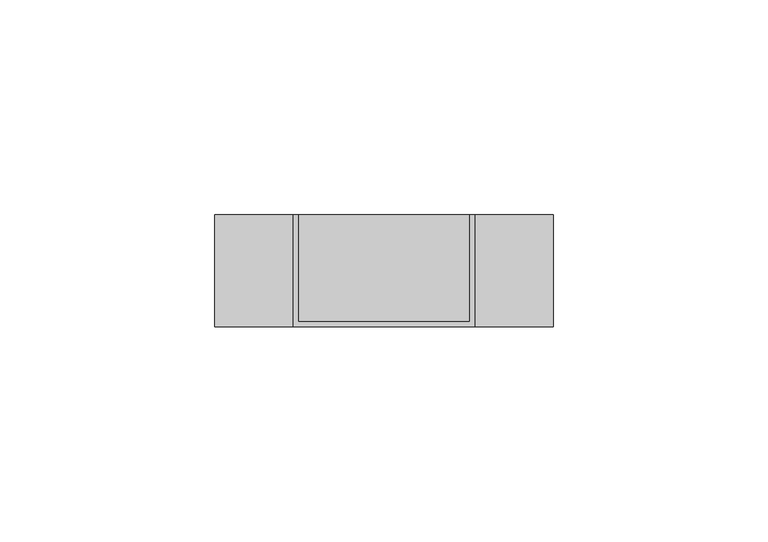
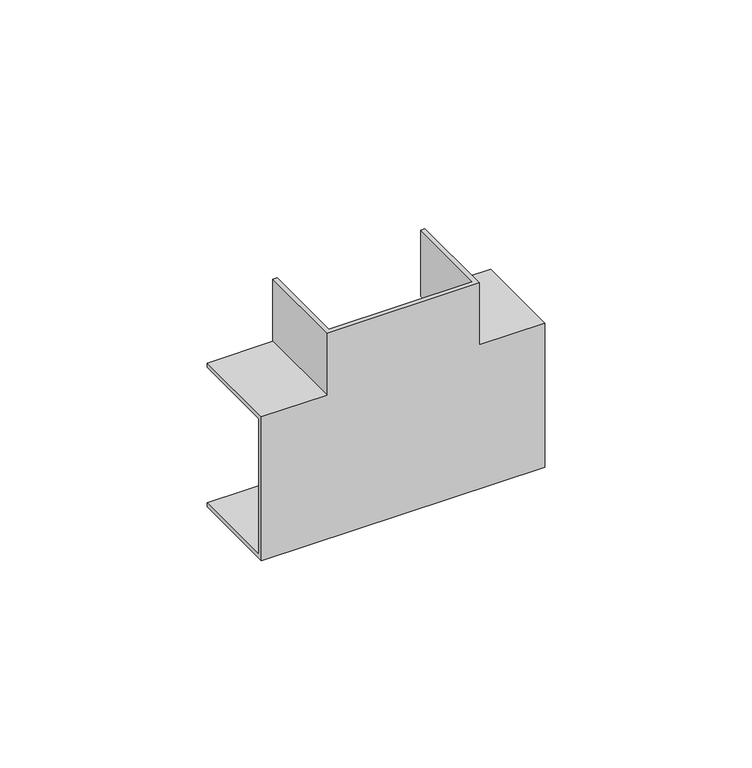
"""IFC4 building model written with IfcOpenShell, lengths in millimetres: proxy geometry, Угол_Т-образный КМТ : Угол Т-образный КМТ 40x25."""

from ifc_helpers import new_model, si_unit, origin, place, context, project, spatial, faceted_brep, source, transform, mapped, element, save


def generic_models_b5a7e4ed(model_context):
    return source(origin(), model_context, "Body", "Brep", [
        faceted_brep([(-21.2, -26.2, 21.2), (-39.5, -26.2, 21.2), (-39.5, -26.2, -21.2), (39.5, -26.2, -21.2), (39.5, -26.2, 21.2), (21.2, -26.2, 21.2), (21.2, -26.2, 39.5), (-21.2, -26.2, 39.5), (-21.2, 0.0, 21.2), (-21.2, 0.0, 39.5), (-20.0, 0.0, 39.5), (-20.0, 0.0, 20.0), (-39.5, 0.0, 20.0), (-39.5, 0.0, 21.2), (21.2, 0.0, 39.5), (21.2, 0.0, 21.2), (39.5, 0.0, 21.2), (39.5, 0.0, 20.0), (20.0, 0.0, 20.0), (20.0, 0.0, 39.5), (39.5, 0.0, -21.2), (-39.5, 0.0, -21.2), (-39.5, 0.0, -20.0), (-20.0, 0.0, -20.0), (20.0, 0.0, -20.0), (39.5, 0.0, -20.0), (-39.5, -25.0, 20.0), (-39.5, -25.0, -20.0), (39.5, -25.0, -20.0), (39.5, -25.0, 20.0), (20.0, -25.0, 39.5), (-20.0, -25.0, 39.5), (-20.0, -25.0, 20.0), (20.0, -25.0, 20.0)], [[[0, 1, 2, 3, 4, 5, 6, 7]], [[8, 9, 10, 11, 12, 13]], [[14, 15, 16, 17, 18, 19]], [[20, 21, 22, 23, 24, 25]], [[1, 0, 8, 13]], [[2, 1, 13, 12, 26, 27, 22, 21]], [[3, 2, 21, 20]], [[4, 3, 20, 25, 28, 29, 17, 16]], [[5, 4, 16, 15]], [[6, 5, 15, 14]], [[7, 6, 14, 19, 30, 31, 10, 9]], [[0, 7, 9, 8]], [[27, 26, 32, 31, 30, 33, 29, 28]], [[22, 27, 28, 25, 24, 23]], [[26, 12, 11, 32]], [[17, 29, 33, 18]], [[33, 30, 19, 18]], [[31, 32, 11, 10]]]),
    ])


if __name__ == "__main__":
    model = new_model("IFC4")
    model_context = context("Model", 3, world=origin())
    ifc_project = project(units=[si_unit("LENGTHUNIT", "METRE", prefix="MILLI")], contexts=[model_context])
    site = spatial("IfcSite", under=ifc_project)
    building = spatial("IfcBuilding", under=site)
    placement = place(None, origin())
    generic_models_shape = generic_models_b5a7e4ed(model_context)
    element("IfcBuildingElementProxy", 1, Name="Угол_Т-образный КМТ : Угол Т-образный КМТ 40x25", ObjectType="Угол_Т-образный КМТ : Угол Т-образный КМТ 40x25", at=placement, inside=building, context=model_context, shape_type="MappedRepresentation", body=[
        mapped(generic_models_shape, transform((0.0, 0.0, 0.0), x_axis=(1.0, 0.0, 0.0), y_axis=(0.0, 1.0, 0.0), z_axis=(0.0, 0.0, 1.0))),
    ])
    save(model, "model.ifc")
